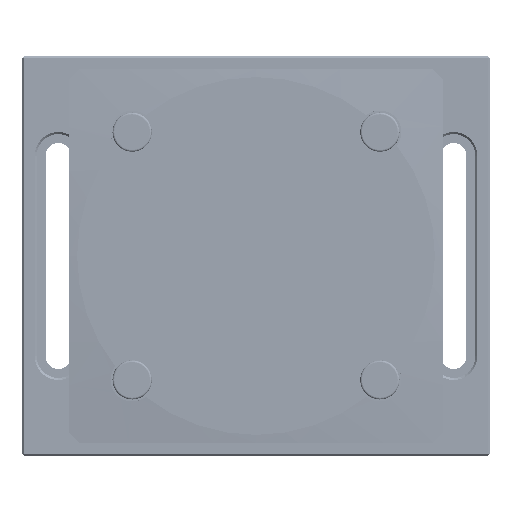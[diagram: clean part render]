
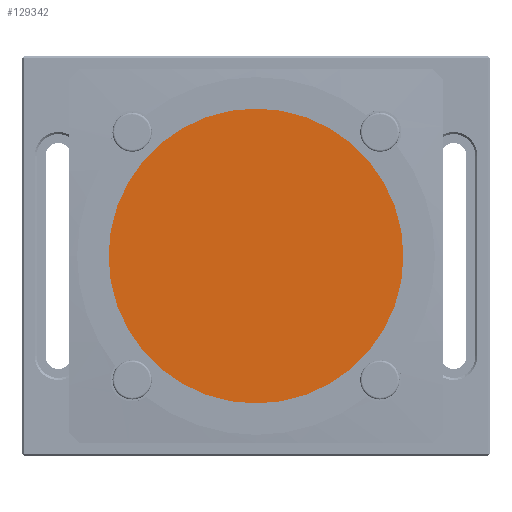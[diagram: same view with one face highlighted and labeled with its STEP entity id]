
A CAD part, front view. The second image highlights one B-rep face of the part: STEP entity #129342.
In plain terms, the highlighted planar face has unit normal (0, -1, 0) as drawn and (0, 1, 0) by its records, which use the part's own axes.
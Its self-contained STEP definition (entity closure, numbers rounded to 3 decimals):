
#128699=CARTESIAN_POINT('',(0.,-3.517,0.));
#128700=DIRECTION('',(0.,1.,0.));
#128701=DIRECTION('',(-1.,0.,0.));
#128702=AXIS2_PLACEMENT_3D('',#128699,#128700,#128701);
#128704=CARTESIAN_POINT('',(0.,-3.517,0.));
#128705=DIRECTION('',(0.,1.,0.));
#128706=DIRECTION('',(1.,0.,0.));
#128707=AXIS2_PLACEMENT_3D('',#128704,#128705,#128706);
#129181=CARTESIAN_POINT('',(-37.5,-3.517,0.));
#129182=CARTESIAN_POINT('',(37.5,-3.517,0.));
#129183=VERTEX_POINT('',#129181);
#129184=VERTEX_POINT('',#129182);
#129333=CARTESIAN_POINT('',(0.,-3.517,0.));
#129334=DIRECTION('',(0.,1.,0.));
#129335=DIRECTION('',(-1.,0.,0.));
#129336=AXIS2_PLACEMENT_3D('',#129333,#129334,#129335);
#129337=PLANE('',#129336);
#129338=ORIENTED_EDGE('',*,*,#129313,.F.);
#129339=ORIENTED_EDGE('',*,*,#129327,.F.);
#129340=EDGE_LOOP('',(#129338,#129339));
#129341=FACE_OUTER_BOUND('',#129340,.F.);
#129342=ADVANCED_FACE('',(#129341),#129337,.T.);
#128703=CIRCLE('',#128702,37.5);
#128708=CIRCLE('',#128707,37.5);
#129313=EDGE_CURVE('',#129183,#129184,#128703,.T.);
#129327=EDGE_CURVE('',#129184,#129183,#128708,.T.);
